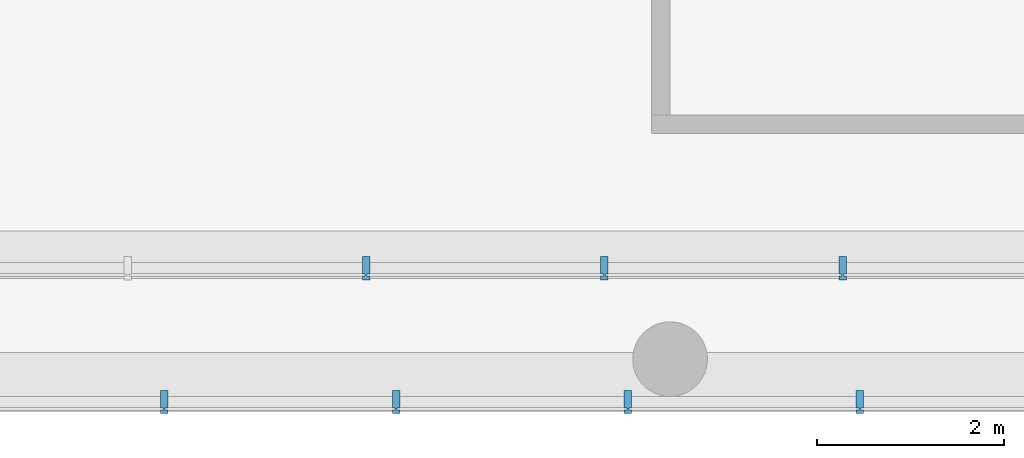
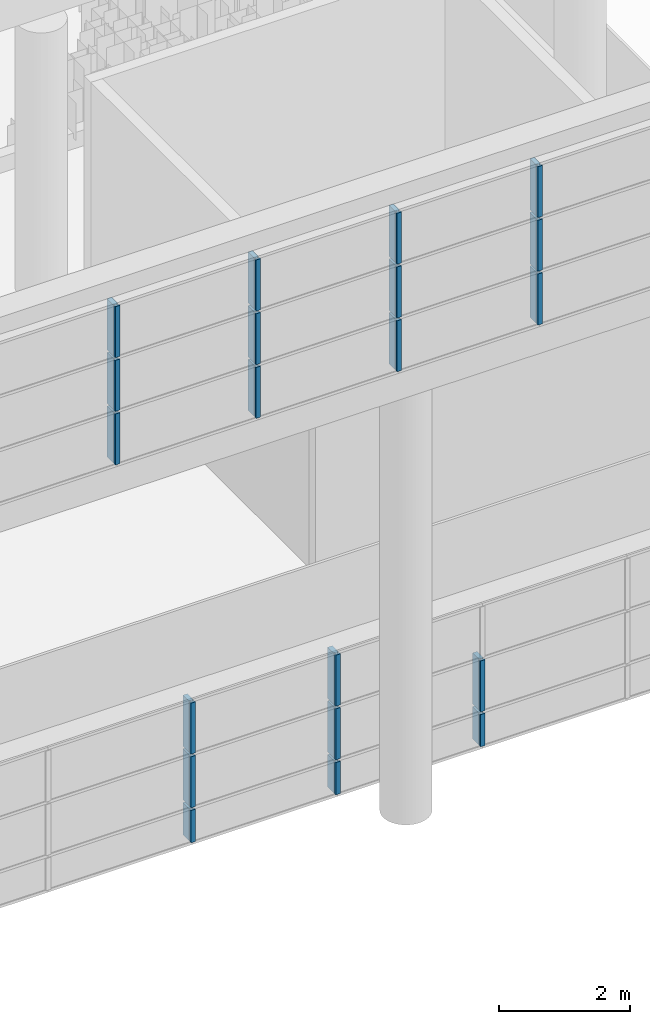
# One storey, part 93 of 105: 20 building element parts, 2 elements without a shape of their own.
"""IFC4 building model written with IfcOpenShell, lengths in millimetres."""

import ifcopenshell
import ifcopenshell.guid

model = None  # the IFC model being written
_history = None  # IfcOwnerHistory: only IFC2X3 demands one
_inside = {}  # id of a spatial element -> (the spatial element, [elements in it])
_under = {}  # id of a project, library or spatial element -> (it, [spatial elements below it])
_declared = {}  # id of a project -> (the project, [libraries it declares])
_typed = {}  # id of a type object -> (the type object, [elements of that type])
_made_of = {}  # id of a material, layer set ... -> (it, [elements and type objects made of it])


def new_model(schema):
    """Start an empty IFC model of exactly this schema.

    Asked for "IFC4X3", IfcOpenShell would pick the latest addendum, in which some entities
    have other attributes; the version numbers below select the first issue.
    IFC2X3 requires an IfcOwnerHistory on every rooted entity: one is made here for all.
    """
    global model, _history
    if schema == "IFC4X3":
        model = ifcopenshell.file(schema_version=(4, 3, 0, 0))
    else:
        model = ifcopenshell.file(schema=schema)
    _inside.clear()
    _under.clear()
    _declared.clear()
    _typed.clear()
    _made_of.clear()
    _history = None
    if model.schema == "IFC2X3":
        org = make("IfcOrganization", Name="unknown")
        user = make(
            "IfcPersonAndOrganization",
            ThePerson=make("IfcPerson", FamilyName="unknown"),
            TheOrganization=org,
        )
        app = make(
            "IfcApplication",
            ApplicationDeveloper=org,
            Version="unknown",
            ApplicationFullName="unknown",
            ApplicationIdentifier="unknown",
        )
        _history = make(
            "IfcOwnerHistory",
            OwningUser=user,
            OwningApplication=app,
            ChangeAction="ADDED",
            CreationDate=0,
        )
    return model


def make(cls, **values):
    """One entity of the class cls with the attributes given. An attribute that is None is left unset."""
    return model.create_entity(
        cls, **{name: value for name, value in values.items() if value is not None}
    )


def entity(cls, *values):
    """Any entity or typed value of the class cls, its attributes in the order of the schema. None: left unset."""
    e = model.create_entity(cls)
    for i, value in enumerate(values):
        if value is not None:
            e[i] = value
    return e


def rooted(cls, **values):
    """An entity with a GlobalId (a new one), such as an element, a storey or a relation."""
    return make(cls, GlobalId=ifcopenshell.guid.new(), OwnerHistory=_history, **values)


def si_unit(unit_type, name, prefix=None):
    """IfcSIUnit, for example si_unit("LENGTHUNIT", "METRE", prefix="MILLI")."""
    return make("IfcSIUnit", UnitType=unit_type, Prefix=prefix, Name=name)


def converted_unit(unit_type, name, factor, base, dimensions=None, offset=None):
    """IfcConversionBasedUnit, such as the inch: factor (a typed value) times the base unit."""
    return make(
        "IfcConversionBasedUnit"
        if offset is None
        else "IfcConversionBasedUnitWithOffset",
        ConversionOffset=offset,
        Dimensions=None
        if dimensions is None
        else entity("IfcDimensionalExponents", *dimensions),
        UnitType=unit_type,
        Name=name,
        ConversionFactor=make(
            "IfcMeasureWithUnit", ValueComponent=factor, UnitComponent=base
        ),
    )


def derived_unit(unit_type, elements):
    """IfcDerivedUnit: a product of units, each with its exponent."""
    return make(
        "IfcDerivedUnit",
        Elements=[
            make("IfcDerivedUnitElement", Unit=unit, Exponent=power)
            for unit, power in elements
        ],
        UnitType=unit_type,
    )


def assignment(units):
    """IfcUnitAssignment: the units of a project."""
    return None if units is None else make("IfcUnitAssignment", Units=units)


def point(xyz):
    """IfcCartesianPoint."""
    return None if xyz is None else make("IfcCartesianPoint", Coordinates=xyz)


def direction(xyz):
    """IfcDirection."""
    return None if xyz is None else make("IfcDirection", DirectionRatios=xyz)


def frame(location, z_axis=None, x_axis=None):
    """IfcAxis2Placement3D, a coordinate frame: its origin and axes. An axis left out is left unset."""
    return make(
        "IfcAxis2Placement3D",
        Location=point(location),
        Axis=direction(z_axis),
        RefDirection=direction(x_axis),
    )


def origin_with_axes():
    """The frame at (0, 0, 0) with the z axis (0, 0, 1) and the x axis (1, 0, 0) written out."""
    return frame((0.0, 0.0, 0.0), z_axis=(0.0, 0.0, 1.0), x_axis=(1.0, 0.0, 0.0))


def place(relative_to, where):
    """IfcLocalPlacement: puts the frame where relative to a parent placement (None: the world)."""
    return make(
        "IfcLocalPlacement", PlacementRelTo=relative_to, RelativePlacement=where
    )


def context(
    kind, dimensions, precision=None, world=None, true_north=None, identifier=None
):
    """IfcGeometricRepresentationContext, for example the 3D "Model" context."""
    return make(
        "IfcGeometricRepresentationContext",
        ContextIdentifier=identifier,
        ContextType=kind,
        CoordinateSpaceDimension=dimensions,
        Precision=precision,
        WorldCoordinateSystem=world,
        TrueNorth=true_north,
    )


def subcontext(parent, identifier, kind, view, scale=None):
    """IfcGeometricRepresentationSubContext, for example "Body" below "Model"."""
    return make(
        "IfcGeometricRepresentationSubContext",
        ContextIdentifier=identifier,
        ContextType=kind,
        ParentContext=parent,
        TargetScale=scale,
        TargetView=view,
    )


def project(units=None, contexts=None):
    """IfcProject with its units and contexts."""
    return rooted(
        "IfcProject",
        Name="project",
        RepresentationContexts=contexts,
        UnitsInContext=assignment(units),
    )


def spatial(cls, under=None, at=None, **own):
    """A site, building, storey or space (cls), placed at a placement, below another one or the project."""
    s = rooted(cls, ObjectPlacement=at, **own)
    if under is not None:
        _under.setdefault(under.id(), (under, []))[1].append(s)
    return s


def point_list(points):
    """IfcCartesianPointList2D or 3D."""
    cls = (
        "IfcCartesianPointList2D" if len(points[0]) == 2 else "IfcCartesianPointList3D"
    )
    return make(cls, CoordList=points)


def triangles(points, corners, closed=None, point_numbers=None):
    """IfcTriangulatedFaceSet: each triangle names its three corners, points numbered from 1."""
    return make(
        "IfcTriangulatedFaceSet",
        Coordinates=point_list(points),
        Closed=closed,
        CoordIndex=corners,
        PnIndex=point_numbers,
    )


def shape(context_of_items, identifier, shape_type, items):
    """IfcShapeRepresentation: the items that make up one representation, for example the "Body"."""
    return make(
        "IfcShapeRepresentation",
        ContextOfItems=context_of_items,
        RepresentationIdentifier=identifier,
        RepresentationType=shape_type,
        Items=items,
    )


def material(Name=None, Category=None):
    """IfcMaterial."""
    return make("IfcMaterial", Name=Name, Category=Category)


def made_of(thing, what):
    """Note that an element or type object is made of a material, layer set ...; save() writes the relation."""
    if what is not None:
        _made_of.setdefault(what.id(), (what, []))[1].append(thing)
    return thing


def element(
    cls,
    number,
    at=None,
    inside=None,
    cuts=None,
    type_object=None,
    material=None,
    context=None,
    identifier="Body",
    shape_type=None,
    held_by="IfcProductDefinitionShape",
    body=None,
    shapes=None,
    **own,
):
    """One element of the class cls, such as IfcWall. Its Tag is "e" and its number.

    at: its placement. inside: the storey or other place that contains it. cuts: it is an
    opening in that element (IfcRelVoidsElement). A single representation is given by context,
    identifier, shape_type and body (its items); several are given by shapes. held_by: the class
    of the entity that holds the representations. save() writes the other relations.
    """
    e = rooted(cls, Tag="e%d" % number, ObjectPlacement=at, **own)
    if body is not None:
        shapes = [shape(context, identifier, shape_type, body)]
    if shapes is not None:
        e.Representation = make(held_by, Representations=shapes)
    if inside is not None:
        _inside.setdefault(inside.id(), (inside, []))[1].append(e)
    if cuts is not None:
        rooted(
            "IfcRelVoidsElement", RelatingBuildingElement=cuts, RelatedOpeningElement=e
        )
    if type_object is not None:
        _typed.setdefault(type_object.id(), (type_object, []))[1].append(e)
    return made_of(e, material)


def aggregate(whole, parts):
    """IfcRelAggregates: a whole, such as a stair, and the parts it consists of."""
    return rooted("IfcRelAggregates", RelatingObject=whole, RelatedObjects=parts)


def save(model, path):
    """Write the relations noted so far, then the file.

    IfcRelAggregates (storeys below a building ...), IfcRelContainedInSpatialStructure (elements
    in a storey), IfcRelDefinesByType, IfcRelAssociatesMaterial and IfcRelDeclares: one each for
    every whole, place, type object, material and project.
    """
    for whole, parts in _under.values():
        aggregate(whole, parts)
    for where, things in _inside.values():
        rooted(
            "IfcRelContainedInSpatialStructure",
            RelatedElements=things,
            RelatingStructure=where,
        )
    for kind, things in _typed.values():
        rooted("IfcRelDefinesByType", RelatedObjects=things, RelatingType=kind)
    for what, things in _made_of.values():
        rooted("IfcRelAssociatesMaterial", RelatedObjects=things, RelatingMaterial=what)
    for by, libraries in _declared.values():
        rooted("IfcRelDeclares", RelatingContext=by, RelatedDefinitions=libraries)
    model.write(path)


model = new_model("IFC4")

# Units and contexts
model_context = context("Model", 3, precision=1e-05, world=origin_with_axes(), true_north=direction((0.0, 1.0)))
body_context = subcontext(model_context, "Body", "Model", "MODEL_VIEW")
ifc_project = project(units=[si_unit("LENGTHUNIT", "METRE", prefix="MILLI"), si_unit("AREAUNIT", "SQUARE_METRE"), si_unit("VOLUMEUNIT", "CUBIC_METRE"), converted_unit("PLANEANGLEUNIT", "DEGREE", entity("IfcLengthMeasure", 0.017453), si_unit("PLANEANGLEUNIT", "RADIAN"), dimensions=[0, 0, 0, 0, 0, 0, 0]), si_unit("SOLIDANGLEUNIT", "STERADIAN"), si_unit("MASSUNIT", "GRAM"), si_unit("TIMEUNIT", "SECOND"), si_unit("THERMODYNAMICTEMPERATUREUNIT", "DEGREE_CELSIUS"), si_unit("LUMINOUSINTENSITYUNIT", "LUMEN"), si_unit("POWERUNIT", "WATT"), derived_unit("THERMALTRANSMITTANCEUNIT", [(si_unit("POWERUNIT", "WATT"), 1), (si_unit("THERMODYNAMICTEMPERATUREUNIT", "KELVIN"), -1), (si_unit("AREAUNIT", "SQUARE_METRE"), -1)])], contexts=[model_context])

# Site, building, storey
site_placement = place(None, origin_with_axes())
site = spatial("IfcSite", under=ifc_project, at=site_placement, Name="Default Site", CompositionType="ELEMENT")
building_placement = place(site_placement, origin_with_axes())
building = spatial("IfcBuilding", under=site, at=building_placement, Name="Default Building", CompositionType="ELEMENT")
storey_placement = place(building_placement, origin_with_axes())
storey = spatial("IfcBuildingStorey", under=building, at=storey_placement, Name="OG - Story", CompositionType="ELEMENT", Elevation=0.0)

# Curtain wall, building element parts
curtain_wall_1_placement = place(storey_placement, origin_with_axes())
curtain_wall_1 = element("IfcCurtainWall", 1, at=curtain_wall_1_placement, inside=storey, Name="Fassade-001", PredefinedType="NOTDEFINED")
ifc_material = material(Name="Blech")
building_element_part_1_placement = place(curtain_wall_1_placement, frame((52496.845873, -51289.262838, 0.0), z_axis=(0.0, 0.0, 1.0), x_axis=(1.0, 0.0, 0.0)))
building_element_part_1 = element("IfcBuildingElementPart", 2, at=building_element_part_1_placement, material=ifc_material, Name="Blech", PredefinedType="NOTDEFINED", context=body_context, shape_type="Tessellation", body=[
    triangles([(14070.0, 10.0, 625.0), (14070.0, 200.0, 625.0), (14040.0, 10.0, 625.0), (14020.0, 10.0, 625.0), (14040.0, -9.999, 625.0), (14070.0, -49.999, 625.0), (14070.0, -9.999, 625.0), (13990.0, 200.0, 625.0), (13990.0, 10.0, 625.0), (14020.0, -9.999, 625.0), (13990.0, -9.999, 625.0), (13990.0, -49.999, 625.0), (14040.0, 10.0, 25.0), (14070.0, 10.0, 25.0), (14070.0, 200.0, 25.0), (13990.0, 200.0, 25.0), (13990.0, 10.0, 25.0), (14020.0, 10.0, 25.0), (14020.0, -9.999, 25.0), (13990.0, -9.999, 25.0), (13990.0, -49.999, 25.0), (14070.0, -49.999, 25.0), (14070.0, -9.999, 25.0), (14040.0, -9.999, 25.0)], [[1, 2, 3], [3, 2, 4], [3, 4, 5], [5, 4, 6], [5, 6, 7], [8, 9, 4], [8, 4, 2], [6, 4, 10], [6, 10, 11], [6, 11, 12], [1, 3, 13], [1, 13, 14], [1, 14, 15], [1, 15, 2], [2, 15, 16], [2, 16, 8], [9, 8, 16], [9, 16, 17], [9, 17, 18], [9, 18, 4], [4, 18, 19], [4, 19, 10], [11, 10, 19], [11, 19, 20], [20, 21, 12], [20, 12, 11], [12, 21, 22], [12, 22, 6], [23, 7, 6], [23, 6, 22], [5, 7, 23], [5, 23, 24], [3, 5, 24], [3, 24, 13], [23, 22, 24], [24, 22, 19], [24, 19, 13], [13, 19, 15], [13, 15, 14], [21, 20, 19], [21, 19, 22], [15, 19, 18], [15, 18, 17], [15, 17, 16]], closed=False),
])
building_element_part_2_placement = place(curtain_wall_1_placement, frame((52496.845873, -51289.262838, 0.0), z_axis=(0.0, 0.0, 1.0), x_axis=(1.0, 0.0, 0.0)))
building_element_part_2 = element("IfcBuildingElementPart", 3, at=building_element_part_2_placement, material=ifc_material, Name="Blech", PredefinedType="NOTDEFINED", context=body_context, shape_type="Tessellation", body=[
    triangles([(16620.909, 10.0, 625.0), (16620.909, 200.0, 625.0), (16590.909, 10.0, 625.0), (16570.909, 10.0, 625.0), (16590.909, -9.999, 625.0), (16620.909, -49.999, 625.0), (16620.909, -9.999, 625.0), (16540.909, 200.0, 625.0), (16540.909, 10.0, 625.0), (16570.909, -9.999, 625.0), (16540.909, -9.999, 625.0), (16540.909, -49.999, 625.0), (16590.909, 10.0, 25.0), (16620.909, 10.0, 25.0), (16620.909, 200.0, 25.0), (16540.909, 200.0, 25.0), (16540.909, 10.0, 25.0), (16570.909, 10.0, 25.0), (16570.909, -9.999, 25.0), (16540.909, -9.999, 25.0), (16540.909, -49.999, 25.0), (16620.909, -49.999, 25.0), (16620.909, -9.999, 25.0), (16590.909, -9.999, 25.0)], [[1, 2, 3], [3, 2, 4], [3, 4, 5], [5, 4, 6], [5, 6, 7], [8, 9, 4], [8, 4, 2], [6, 4, 10], [6, 10, 11], [6, 11, 12], [1, 3, 13], [1, 13, 14], [1, 14, 15], [1, 15, 2], [2, 15, 16], [2, 16, 8], [9, 8, 16], [9, 16, 17], [9, 17, 18], [9, 18, 4], [4, 18, 19], [4, 19, 10], [11, 10, 19], [11, 19, 20], [20, 21, 12], [20, 12, 11], [12, 21, 22], [12, 22, 6], [23, 7, 6], [23, 6, 22], [5, 7, 23], [5, 23, 24], [3, 5, 24], [3, 24, 13], [23, 22, 24], [24, 22, 19], [24, 19, 13], [13, 19, 15], [13, 15, 14], [21, 20, 19], [21, 19, 22], [15, 19, 18], [15, 18, 17], [15, 17, 16]], closed=False),
])
building_element_part_3_placement = place(curtain_wall_1_placement, frame((52496.845873, -51289.262838, 0.0), z_axis=(0.0, 0.0, 1.0), x_axis=(1.0, 0.0, 0.0)))
building_element_part_3 = element("IfcBuildingElementPart", 4, at=building_element_part_3_placement, material=ifc_material, Name="Blech", PredefinedType="NOTDEFINED", context=body_context, shape_type="Tessellation", body=[
    triangles([(19171.818, 10.0, 625.0), (19171.818, 200.0, 625.0), (19141.818, 10.0, 625.0), (19121.818, 10.0, 625.0), (19141.818, -9.999, 625.0), (19171.818, -49.999, 625.0), (19171.818, -9.999, 625.0), (19091.818, 200.0, 625.0), (19091.818, 10.0, 625.0), (19121.818, -9.999, 625.0), (19091.818, -9.999, 625.0), (19091.818, -49.999, 625.0), (19141.818, 10.0, 25.0), (19171.818, 10.0, 25.0), (19171.818, 200.0, 25.0), (19091.818, 200.0, 25.0), (19091.818, 10.0, 25.0), (19121.818, 10.0, 25.0), (19121.818, -9.999, 25.0), (19091.818, -9.999, 25.0), (19091.818, -49.999, 25.0), (19171.818, -49.999, 25.0), (19171.818, -9.999, 25.0), (19141.818, -9.999, 25.0)], [[1, 2, 3], [3, 2, 4], [3, 4, 5], [5, 4, 6], [5, 6, 7], [8, 9, 4], [8, 4, 2], [6, 4, 10], [6, 10, 11], [6, 11, 12], [1, 3, 13], [1, 13, 14], [1, 14, 15], [1, 15, 2], [2, 15, 16], [2, 16, 8], [9, 8, 16], [9, 16, 17], [9, 17, 18], [9, 18, 4], [4, 18, 19], [4, 19, 10], [11, 10, 19], [11, 19, 20], [20, 21, 12], [20, 12, 11], [12, 21, 22], [12, 22, 6], [23, 7, 6], [23, 6, 22], [5, 7, 23], [5, 23, 24], [3, 5, 24], [3, 24, 13], [23, 22, 24], [24, 22, 19], [24, 19, 13], [13, 19, 15], [13, 15, 14], [21, 20, 19], [21, 19, 22], [15, 19, 18], [15, 18, 17], [15, 17, 16]], closed=False),
])
building_element_part_4_placement = place(curtain_wall_1_placement, frame((52496.845873, -51289.262838, 0.0), z_axis=(0.0, 0.0, 1.0), x_axis=(1.0, 0.0, 0.0)))
building_element_part_4 = element("IfcBuildingElementPart", 5, at=building_element_part_4_placement, material=ifc_material, Name="Blech", PredefinedType="NOTDEFINED", context=body_context, shape_type="Tessellation", body=[
    triangles([(14070.0, 10.0, 1625.0), (14070.0, 200.0, 1625.0), (14040.0, 10.0, 1625.0), (14020.0, 10.0, 1625.0), (14040.0, -9.999, 1625.0), (14070.0, -49.999, 1625.0), (14070.0, -9.999, 1625.0), (13990.0, 200.0, 1625.0), (13990.0, 10.0, 1625.0), (14020.0, -9.999, 1625.0), (13990.0, -9.999, 1625.0), (13990.0, -49.999, 1625.0), (14040.0, 10.0, 675.0), (14070.0, 10.0, 675.0), (14070.0, 200.0, 675.0), (13990.0, 200.0, 675.0), (13990.0, 10.0, 675.0), (14020.0, 10.0, 675.0), (14020.0, -9.999, 675.0), (13990.0, -9.999, 675.0), (13990.0, -49.999, 675.0), (14070.0, -49.999, 675.0), (14070.0, -9.999, 675.0), (14040.0, -9.999, 675.0)], [[1, 2, 3], [3, 2, 4], [3, 4, 5], [5, 4, 6], [5, 6, 7], [8, 9, 4], [8, 4, 2], [6, 4, 10], [6, 10, 11], [6, 11, 12], [1, 3, 13], [1, 13, 14], [1, 14, 15], [1, 15, 2], [2, 15, 16], [2, 16, 8], [9, 8, 16], [9, 16, 17], [9, 17, 18], [9, 18, 4], [4, 18, 19], [4, 19, 10], [11, 10, 19], [11, 19, 20], [20, 21, 12], [20, 12, 11], [12, 21, 22], [12, 22, 6], [23, 7, 6], [23, 6, 22], [5, 7, 23], [5, 23, 24], [3, 5, 24], [3, 24, 13], [23, 22, 24], [24, 22, 19], [24, 19, 13], [13, 19, 15], [13, 15, 14], [21, 20, 19], [21, 19, 22], [15, 19, 18], [15, 18, 17], [15, 17, 16]], closed=False),
])
building_element_part_5_placement = place(curtain_wall_1_placement, frame((52496.845873, -51289.262838, 0.0), z_axis=(0.0, 0.0, 1.0), x_axis=(1.0, 0.0, 0.0)))
building_element_part_5 = element("IfcBuildingElementPart", 6, at=building_element_part_5_placement, material=ifc_material, Name="Blech", PredefinedType="NOTDEFINED", context=body_context, shape_type="Tessellation", body=[
    triangles([(16620.909, 10.0, 1625.0), (16620.909, 200.0, 1625.0), (16590.909, 10.0, 1625.0), (16570.909, 10.0, 1625.0), (16590.909, -9.999, 1625.0), (16620.909, -49.999, 1625.0), (16620.909, -9.999, 1625.0), (16540.909, 200.0, 1625.0), (16540.909, 10.0, 1625.0), (16570.909, -9.999, 1625.0), (16540.909, -9.999, 1625.0), (16540.909, -49.999, 1625.0), (16590.909, 10.0, 675.0), (16620.909, 10.0, 675.0), (16620.909, 200.0, 675.0), (16540.909, 200.0, 675.0), (16540.909, 10.0, 675.0), (16570.909, 10.0, 675.0), (16570.909, -9.999, 675.0), (16540.909, -9.999, 675.0), (16540.909, -49.999, 675.0), (16620.909, -49.999, 675.0), (16620.909, -9.999, 675.0), (16590.909, -9.999, 675.0)], [[1, 2, 3], [3, 2, 4], [3, 4, 5], [5, 4, 6], [5, 6, 7], [8, 9, 4], [8, 4, 2], [6, 4, 10], [6, 10, 11], [6, 11, 12], [1, 3, 13], [1, 13, 14], [1, 14, 15], [1, 15, 2], [2, 15, 16], [2, 16, 8], [9, 8, 16], [9, 16, 17], [9, 17, 18], [9, 18, 4], [4, 18, 19], [4, 19, 10], [11, 10, 19], [11, 19, 20], [20, 21, 12], [20, 12, 11], [12, 21, 22], [12, 22, 6], [23, 7, 6], [23, 6, 22], [5, 7, 23], [5, 23, 24], [3, 5, 24], [3, 24, 13], [23, 22, 24], [24, 22, 19], [24, 19, 13], [13, 19, 15], [13, 15, 14], [21, 20, 19], [21, 19, 22], [15, 19, 18], [15, 18, 17], [15, 17, 16]], closed=False),
])
building_element_part_6_placement = place(curtain_wall_1_placement, frame((52496.845873, -51289.262838, 0.0), z_axis=(0.0, 0.0, 1.0), x_axis=(1.0, 0.0, 0.0)))
building_element_part_6 = element("IfcBuildingElementPart", 7, at=building_element_part_6_placement, material=ifc_material, Name="Blech", PredefinedType="NOTDEFINED", context=body_context, shape_type="Tessellation", body=[
    triangles([(19171.818, 10.0, 1625.0), (19171.818, 200.0, 1625.0), (19141.818, 10.0, 1625.0), (19121.818, 10.0, 1625.0), (19141.818, -9.999, 1625.0), (19171.818, -49.999, 1625.0), (19171.818, -9.999, 1625.0), (19091.818, 200.0, 1625.0), (19091.818, 10.0, 1625.0), (19121.818, -9.999, 1625.0), (19091.818, -9.999, 1625.0), (19091.818, -49.999, 1625.0), (19141.818, 10.0, 675.0), (19171.818, 10.0, 675.0), (19171.818, 200.0, 675.0), (19091.818, 200.0, 675.0), (19091.818, 10.0, 675.0), (19121.818, 10.0, 675.0), (19121.818, -9.999, 675.0), (19091.818, -9.999, 675.0), (19091.818, -49.999, 675.0), (19171.818, -49.999, 675.0), (19171.818, -9.999, 675.0), (19141.818, -9.999, 675.0)], [[1, 2, 3], [3, 2, 4], [3, 4, 5], [5, 4, 6], [5, 6, 7], [8, 9, 4], [8, 4, 2], [6, 4, 10], [6, 10, 11], [6, 11, 12], [1, 3, 13], [1, 13, 14], [1, 14, 15], [1, 15, 2], [2, 15, 16], [2, 16, 8], [9, 8, 16], [9, 16, 17], [9, 17, 18], [9, 18, 4], [4, 18, 19], [4, 19, 10], [11, 10, 19], [11, 19, 20], [20, 21, 12], [20, 12, 11], [12, 21, 22], [12, 22, 6], [23, 7, 6], [23, 6, 22], [5, 7, 23], [5, 23, 24], [3, 5, 24], [3, 24, 13], [23, 22, 24], [24, 22, 19], [24, 19, 13], [13, 19, 15], [13, 15, 14], [21, 20, 19], [21, 19, 22], [15, 19, 18], [15, 18, 17], [15, 17, 16]], closed=False),
])
building_element_part_7_placement = place(curtain_wall_1_placement, frame((52496.845873, -51289.262838, 0.0), z_axis=(0.0, 0.0, 1.0), x_axis=(1.0, 0.0, 0.0)))
building_element_part_7 = element("IfcBuildingElementPart", 8, at=building_element_part_7_placement, material=ifc_material, Name="Blech", PredefinedType="NOTDEFINED", context=body_context, shape_type="Tessellation", body=[
    triangles([(14070.0, 10.0, 2625.0), (14070.0, 200.0, 2625.0), (14040.0, 10.0, 2625.0), (14020.0, 10.0, 2625.0), (14040.0, -9.999, 2625.0), (14070.0, -49.999, 2625.0), (14070.0, -9.999, 2625.0), (13990.0, 200.0, 2625.0), (13990.0, 10.0, 2625.0), (14020.0, -9.999, 2625.0), (13990.0, -9.999, 2625.0), (13990.0, -49.999, 2625.0), (14040.0, 10.0, 1675.0), (14070.0, 10.0, 1675.0), (14070.0, 200.0, 1675.0), (13990.0, 200.0, 1675.0), (13990.0, 10.0, 1675.0), (14020.0, 10.0, 1675.0), (14020.0, -9.999, 1675.0), (13990.0, -9.999, 1675.0), (13990.0, -49.999, 1675.0), (14070.0, -49.999, 1675.0), (14070.0, -9.999, 1675.0), (14040.0, -9.999, 1675.0)], [[1, 2, 3], [3, 2, 4], [3, 4, 5], [5, 4, 6], [5, 6, 7], [8, 9, 4], [8, 4, 2], [6, 4, 10], [6, 10, 11], [6, 11, 12], [1, 3, 13], [1, 13, 14], [1, 14, 15], [1, 15, 2], [2, 15, 16], [2, 16, 8], [9, 8, 16], [9, 16, 17], [9, 17, 18], [9, 18, 4], [4, 18, 19], [4, 19, 10], [11, 10, 19], [11, 19, 20], [20, 21, 12], [20, 12, 11], [12, 21, 22], [12, 22, 6], [23, 7, 6], [23, 6, 22], [5, 7, 23], [5, 23, 24], [3, 5, 24], [3, 24, 13], [23, 22, 24], [24, 22, 19], [24, 19, 13], [13, 19, 15], [13, 15, 14], [21, 20, 19], [21, 19, 22], [15, 19, 18], [15, 18, 17], [15, 17, 16]], closed=False),
])
building_element_part_8_placement = place(curtain_wall_1_placement, frame((52496.845873, -51289.262838, 0.0), z_axis=(0.0, 0.0, 1.0), x_axis=(1.0, 0.0, 0.0)))
building_element_part_8 = element("IfcBuildingElementPart", 9, at=building_element_part_8_placement, material=ifc_material, Name="Blech", PredefinedType="NOTDEFINED", context=body_context, shape_type="Tessellation", body=[
    triangles([(16620.909, 10.0, 2625.0), (16620.909, 200.0, 2625.0), (16590.909, 10.0, 2625.0), (16570.909, 10.0, 2625.0), (16590.909, -9.999, 2625.0), (16620.909, -49.999, 2625.0), (16620.909, -9.999, 2625.0), (16540.909, 200.0, 2625.0), (16540.909, 10.0, 2625.0), (16570.909, -9.999, 2625.0), (16540.909, -9.999, 2625.0), (16540.909, -49.999, 2625.0), (16590.909, 10.0, 1675.0), (16620.909, 10.0, 1675.0), (16620.909, 200.0, 1675.0), (16540.909, 200.0, 1675.0), (16540.909, 10.0, 1675.0), (16570.909, 10.0, 1675.0), (16570.909, -9.999, 1675.0), (16540.909, -9.999, 1675.0), (16540.909, -49.999, 1675.0), (16620.909, -49.999, 1675.0), (16620.909, -9.999, 1675.0), (16590.909, -9.999, 1675.0)], [[1, 2, 3], [3, 2, 4], [3, 4, 5], [5, 4, 6], [5, 6, 7], [8, 9, 4], [8, 4, 2], [6, 4, 10], [6, 10, 11], [6, 11, 12], [1, 3, 13], [1, 13, 14], [1, 14, 15], [1, 15, 2], [2, 15, 16], [2, 16, 8], [9, 8, 16], [9, 16, 17], [9, 17, 18], [9, 18, 4], [4, 18, 19], [4, 19, 10], [11, 10, 19], [11, 19, 20], [20, 21, 12], [20, 12, 11], [12, 21, 22], [12, 22, 6], [23, 7, 6], [23, 6, 22], [5, 7, 23], [5, 23, 24], [3, 5, 24], [3, 24, 13], [23, 22, 24], [24, 22, 19], [24, 19, 13], [13, 19, 15], [13, 15, 14], [21, 20, 19], [21, 19, 22], [15, 19, 18], [15, 18, 17], [15, 17, 16]], closed=False),
])
aggregate(curtain_wall_1, [building_element_part_1, building_element_part_2, building_element_part_3, building_element_part_4, building_element_part_5, building_element_part_6, building_element_part_7, building_element_part_8])

curtain_wall_2_placement = place(storey_placement, origin_with_axes())
curtain_wall_2 = element("IfcCurtainWall", 10, at=curtain_wall_2_placement, inside=storey, Name="Fassade-002", PredefinedType="NOTDEFINED")
building_element_part_9_placement = place(curtain_wall_2_placement, frame((33339.077852, -52722.262838, 8660.317768), z_axis=(0.0, 0.0, 1.0), x_axis=(1.0, 0.0, 0.0)))
building_element_part_9 = element("IfcBuildingElementPart", 11, at=building_element_part_9_placement, material=ifc_material, Name="Blech", PredefinedType="NOTDEFINED", context=body_context, shape_type="Tessellation", body=[
    triangles([(31066.161, 10.0, 975.0), (31066.161, 200.0, 975.0), (31036.161, 10.0, 975.0), (31016.161, 10.0, 975.0), (31036.161, -9.999, 975.0), (31066.161, -49.999, 975.0), (31066.161, -9.999, 975.0), (30986.161, 200.0, 975.0), (30986.161, 10.0, 975.0), (31016.161, -9.999, 975.0), (30986.161, -9.999, 975.0), (30986.161, -49.999, 975.0), (31036.161, 10.0, 25.0), (31066.161, 10.0, 25.0), (31066.161, 200.0, 25.0), (30986.161, 200.0, 25.0), (30986.161, 10.0, 25.0), (31016.161, 10.0, 25.0), (31016.161, -9.999, 25.0), (30986.161, -9.999, 25.0), (30986.161, -49.999, 25.0), (31066.161, -49.999, 25.0), (31066.161, -9.999, 25.0), (31036.161, -9.999, 25.0)], [[1, 2, 3], [3, 2, 4], [3, 4, 5], [5, 4, 6], [5, 6, 7], [8, 9, 4], [8, 4, 2], [6, 4, 10], [6, 10, 11], [6, 11, 12], [1, 3, 13], [1, 13, 14], [1, 14, 15], [1, 15, 2], [2, 15, 16], [2, 16, 8], [9, 8, 16], [9, 16, 17], [9, 17, 18], [9, 18, 4], [4, 18, 19], [4, 19, 10], [11, 10, 19], [11, 19, 20], [20, 21, 12], [20, 12, 11], [12, 21, 22], [12, 22, 6], [23, 7, 6], [23, 6, 22], [5, 7, 23], [5, 23, 24], [3, 5, 24], [3, 24, 13], [23, 22, 24], [24, 22, 19], [24, 19, 13], [13, 19, 15], [13, 15, 14], [21, 20, 19], [21, 19, 22], [15, 19, 18], [15, 18, 17], [15, 17, 16]], closed=False),
])
building_element_part_10_placement = place(curtain_wall_2_placement, frame((33339.077852, -52722.262838, 8660.317768), z_axis=(0.0, 0.0, 1.0), x_axis=(1.0, 0.0, 0.0)))
building_element_part_10 = element("IfcBuildingElementPart", 12, at=building_element_part_10_placement, material=ifc_material, Name="Blech", PredefinedType="NOTDEFINED", context=body_context, shape_type="Tessellation", body=[
    triangles([(31066.161, 10.0, 1975.0), (31066.161, 200.0, 1975.0), (31036.161, 10.0, 1975.0), (31016.161, 10.0, 1975.0), (31036.161, -9.999, 1975.0), (31066.161, -49.999, 1975.0), (31066.161, -9.999, 1975.0), (30986.161, 200.0, 1975.0), (30986.161, 10.0, 1975.0), (31016.161, -9.999, 1975.0), (30986.161, -9.999, 1975.0), (30986.161, -49.999, 1975.0), (31036.161, 10.0, 1025.0), (31066.161, 10.0, 1025.0), (31066.161, 200.0, 1025.0), (30986.161, 200.0, 1025.0), (30986.161, 10.0, 1025.0), (31016.161, 10.0, 1025.0), (31016.161, -9.999, 1025.0), (30986.161, -9.999, 1025.0), (30986.161, -49.999, 1025.0), (31066.161, -49.999, 1025.0), (31066.161, -9.999, 1025.0), (31036.161, -9.999, 1025.0)], [[1, 2, 3], [3, 2, 4], [3, 4, 5], [5, 4, 6], [5, 6, 7], [8, 9, 4], [8, 4, 2], [6, 4, 10], [6, 10, 11], [6, 11, 12], [1, 3, 13], [1, 13, 14], [1, 14, 15], [1, 15, 2], [2, 15, 16], [2, 16, 8], [9, 8, 16], [9, 16, 17], [9, 17, 18], [9, 18, 4], [4, 18, 19], [4, 19, 10], [11, 10, 19], [11, 19, 20], [20, 21, 12], [20, 12, 11], [12, 21, 22], [12, 22, 6], [23, 7, 6], [23, 6, 22], [5, 7, 23], [5, 23, 24], [3, 5, 24], [3, 24, 13], [23, 22, 24], [24, 22, 19], [24, 19, 13], [13, 19, 15], [13, 15, 14], [21, 20, 19], [21, 19, 22], [15, 19, 18], [15, 18, 17], [15, 17, 16]], closed=False),
])
building_element_part_11_placement = place(curtain_wall_2_placement, frame((33339.077852, -52722.262838, 8660.317768), z_axis=(0.0, 0.0, 1.0), x_axis=(1.0, 0.0, 0.0)))
building_element_part_11 = element("IfcBuildingElementPart", 13, at=building_element_part_11_placement, material=ifc_material, Name="Blech", PredefinedType="NOTDEFINED", context=body_context, shape_type="Tessellation", body=[
    triangles([(31066.161, 10.0, 2975.0), (31066.161, 200.0, 2975.0), (31036.161, 10.0, 2975.0), (31016.161, 10.0, 2975.0), (31036.161, -9.999, 2975.0), (31066.161, -49.999, 2975.0), (31066.161, -9.999, 2975.0), (30986.161, 200.0, 2975.0), (30986.161, 10.0, 2975.0), (31016.161, -9.999, 2975.0), (30986.161, -9.999, 2975.0), (30986.161, -49.999, 2975.0), (31036.161, 10.0, 2025.0), (31066.161, 10.0, 2025.0), (31066.161, 200.0, 2025.0), (30986.161, 200.0, 2025.0), (30986.161, 10.0, 2025.0), (31016.161, 10.0, 2025.0), (31016.161, -9.999, 2025.0), (30986.161, -9.999, 2025.0), (30986.161, -49.999, 2025.0), (31066.161, -49.999, 2025.0), (31066.161, -9.999, 2025.0), (31036.161, -9.999, 2025.0)], [[1, 2, 3], [3, 2, 4], [3, 4, 5], [5, 4, 6], [5, 6, 7], [8, 9, 4], [8, 4, 2], [6, 4, 10], [6, 10, 11], [6, 11, 12], [1, 3, 13], [1, 13, 14], [1, 14, 15], [1, 15, 2], [2, 15, 16], [2, 16, 8], [9, 8, 16], [9, 16, 17], [9, 17, 18], [9, 18, 4], [4, 18, 19], [4, 19, 10], [11, 10, 19], [11, 19, 20], [20, 21, 12], [20, 12, 11], [12, 21, 22], [12, 22, 6], [23, 7, 6], [23, 6, 22], [5, 7, 23], [5, 23, 24], [3, 5, 24], [3, 24, 13], [23, 22, 24], [24, 22, 19], [24, 19, 13], [13, 19, 15], [13, 15, 14], [21, 20, 19], [21, 19, 22], [15, 19, 18], [15, 18, 17], [15, 17, 16]], closed=False),
])
building_element_part_12_placement = place(curtain_wall_2_placement, frame((33339.077852, -52722.262838, 8660.317768), z_axis=(0.0, 0.0, 1.0), x_axis=(1.0, 0.0, 0.0)))
building_element_part_12 = element("IfcBuildingElementPart", 14, at=building_element_part_12_placement, material=ifc_material, Name="Blech", PredefinedType="NOTDEFINED", context=body_context, shape_type="Tessellation", body=[
    triangles([(33548.254, 10.0, 975.0), (33548.254, 200.0, 975.0), (33518.254, 10.0, 975.0), (33498.254, 10.0, 975.0), (33518.254, -9.999, 975.0), (33548.254, -49.999, 975.0), (33548.254, -9.999, 975.0), (33468.254, 200.0, 975.0), (33468.254, 10.0, 975.0), (33498.254, -9.999, 975.0), (33468.254, -9.999, 975.0), (33468.254, -49.999, 975.0), (33518.254, 10.0, 25.0), (33548.254, 10.0, 25.0), (33548.254, 200.0, 25.0), (33468.254, 200.0, 25.0), (33468.254, 10.0, 25.0), (33498.254, 10.0, 25.0), (33498.254, -9.999, 25.0), (33468.254, -9.999, 25.0), (33468.254, -49.999, 25.0), (33548.254, -49.999, 25.0), (33548.254, -9.999, 25.0), (33518.254, -9.999, 25.0)], [[1, 2, 3], [3, 2, 4], [3, 4, 5], [5, 4, 6], [5, 6, 7], [8, 9, 4], [8, 4, 2], [6, 4, 10], [6, 10, 11], [6, 11, 12], [1, 3, 13], [1, 13, 14], [1, 14, 15], [1, 15, 2], [2, 15, 16], [2, 16, 8], [9, 8, 16], [9, 16, 17], [9, 17, 18], [9, 18, 4], [4, 18, 19], [4, 19, 10], [11, 10, 19], [11, 19, 20], [20, 21, 12], [20, 12, 11], [12, 21, 22], [12, 22, 6], [23, 7, 6], [23, 6, 22], [5, 7, 23], [5, 23, 24], [3, 5, 24], [3, 24, 13], [23, 22, 24], [24, 22, 19], [24, 19, 13], [13, 19, 15], [13, 15, 14], [21, 20, 19], [21, 19, 22], [15, 19, 18], [15, 18, 17], [15, 17, 16]], closed=False),
])
building_element_part_13_placement = place(curtain_wall_2_placement, frame((33339.077852, -52722.262838, 8660.317768), z_axis=(0.0, 0.0, 1.0), x_axis=(1.0, 0.0, 0.0)))
building_element_part_13 = element("IfcBuildingElementPart", 15, at=building_element_part_13_placement, material=ifc_material, Name="Blech", PredefinedType="NOTDEFINED", context=body_context, shape_type="Tessellation", body=[
    triangles([(33548.254, 10.0, 1975.0), (33548.254, 200.0, 1975.0), (33518.254, 10.0, 1975.0), (33498.254, 10.0, 1975.0), (33518.254, -9.999, 1975.0), (33548.254, -49.999, 1975.0), (33548.254, -9.999, 1975.0), (33468.254, 200.0, 1975.0), (33468.254, 10.0, 1975.0), (33498.254, -9.999, 1975.0), (33468.254, -9.999, 1975.0), (33468.254, -49.999, 1975.0), (33518.254, 10.0, 1025.0), (33548.254, 10.0, 1025.0), (33548.254, 200.0, 1025.0), (33468.254, 200.0, 1025.0), (33468.254, 10.0, 1025.0), (33498.254, 10.0, 1025.0), (33498.254, -9.999, 1025.0), (33468.254, -9.999, 1025.0), (33468.254, -49.999, 1025.0), (33548.254, -49.999, 1025.0), (33548.254, -9.999, 1025.0), (33518.254, -9.999, 1025.0)], [[1, 2, 3], [3, 2, 4], [3, 4, 5], [5, 4, 6], [5, 6, 7], [8, 9, 4], [8, 4, 2], [6, 4, 10], [6, 10, 11], [6, 11, 12], [1, 3, 13], [1, 13, 14], [1, 14, 15], [1, 15, 2], [2, 15, 16], [2, 16, 8], [9, 8, 16], [9, 16, 17], [9, 17, 18], [9, 18, 4], [4, 18, 19], [4, 19, 10], [11, 10, 19], [11, 19, 20], [20, 21, 12], [20, 12, 11], [12, 21, 22], [12, 22, 6], [23, 7, 6], [23, 6, 22], [5, 7, 23], [5, 23, 24], [3, 5, 24], [3, 24, 13], [23, 22, 24], [24, 22, 19], [24, 19, 13], [13, 19, 15], [13, 15, 14], [21, 20, 19], [21, 19, 22], [15, 19, 18], [15, 18, 17], [15, 17, 16]], closed=False),
])
building_element_part_14_placement = place(curtain_wall_2_placement, frame((33339.077852, -52722.262838, 8660.317768), z_axis=(0.0, 0.0, 1.0), x_axis=(1.0, 0.0, 0.0)))
building_element_part_14 = element("IfcBuildingElementPart", 16, at=building_element_part_14_placement, material=ifc_material, Name="Blech", PredefinedType="NOTDEFINED", context=body_context, shape_type="Tessellation", body=[
    triangles([(33548.254, 10.0, 2975.0), (33548.254, 200.0, 2975.0), (33518.254, 10.0, 2975.0), (33498.254, 10.0, 2975.0), (33518.254, -9.999, 2975.0), (33548.254, -49.999, 2975.0), (33548.254, -9.999, 2975.0), (33468.254, 200.0, 2975.0), (33468.254, 10.0, 2975.0), (33498.254, -9.999, 2975.0), (33468.254, -9.999, 2975.0), (33468.254, -49.999, 2975.0), (33518.254, 10.0, 2025.0), (33548.254, 10.0, 2025.0), (33548.254, 200.0, 2025.0), (33468.254, 200.0, 2025.0), (33468.254, 10.0, 2025.0), (33498.254, 10.0, 2025.0), (33498.254, -9.999, 2025.0), (33468.254, -9.999, 2025.0), (33468.254, -49.999, 2025.0), (33548.254, -49.999, 2025.0), (33548.254, -9.999, 2025.0), (33518.254, -9.999, 2025.0)], [[1, 2, 3], [3, 2, 4], [3, 4, 5], [5, 4, 6], [5, 6, 7], [8, 9, 4], [8, 4, 2], [6, 4, 10], [6, 10, 11], [6, 11, 12], [1, 3, 13], [1, 13, 14], [1, 14, 15], [1, 15, 2], [2, 15, 16], [2, 16, 8], [9, 8, 16], [9, 16, 17], [9, 17, 18], [9, 18, 4], [4, 18, 19], [4, 19, 10], [11, 10, 19], [11, 19, 20], [20, 21, 12], [20, 12, 11], [12, 21, 22], [12, 22, 6], [23, 7, 6], [23, 6, 22], [5, 7, 23], [5, 23, 24], [3, 5, 24], [3, 24, 13], [23, 22, 24], [24, 22, 19], [24, 19, 13], [13, 19, 15], [13, 15, 14], [21, 20, 19], [21, 19, 22], [15, 19, 18], [15, 18, 17], [15, 17, 16]], closed=False),
])
building_element_part_15_placement = place(curtain_wall_2_placement, frame((33339.077852, -52722.262838, 8660.317768), z_axis=(0.0, 0.0, 1.0), x_axis=(1.0, 0.0, 0.0)))
building_element_part_15 = element("IfcBuildingElementPart", 17, at=building_element_part_15_placement, material=ifc_material, Name="Blech", PredefinedType="NOTDEFINED", context=body_context, shape_type="Tessellation", body=[
    triangles([(36030.347, 10.0, 975.0), (36030.347, 200.0, 975.0), (36000.347, 10.0, 975.0), (35980.347, 10.0, 975.0), (36000.347, -9.999, 975.0), (36030.347, -49.999, 975.0), (36030.347, -9.999, 975.0), (35950.347, 200.0, 975.0), (35950.347, 10.0, 975.0), (35980.347, -9.999, 975.0), (35950.347, -9.999, 975.0), (35950.347, -49.999, 975.0), (36000.347, 10.0, 25.0), (36030.347, 10.0, 25.0), (36030.347, 200.0, 25.0), (35950.347, 200.0, 25.0), (35950.347, 10.0, 25.0), (35980.347, 10.0, 25.0), (35980.347, -9.999, 25.0), (35950.347, -9.999, 25.0), (35950.347, -49.999, 25.0), (36030.347, -49.999, 25.0), (36030.347, -9.999, 25.0), (36000.347, -9.999, 25.0)], [[1, 2, 3], [3, 2, 4], [3, 4, 5], [5, 4, 6], [5, 6, 7], [8, 9, 4], [8, 4, 2], [6, 4, 10], [6, 10, 11], [6, 11, 12], [1, 3, 13], [1, 13, 14], [1, 14, 15], [1, 15, 2], [2, 15, 16], [2, 16, 8], [9, 8, 16], [9, 16, 17], [9, 17, 18], [9, 18, 4], [4, 18, 19], [4, 19, 10], [11, 10, 19], [11, 19, 20], [20, 21, 12], [20, 12, 11], [12, 21, 22], [12, 22, 6], [23, 7, 6], [23, 6, 22], [5, 7, 23], [5, 23, 24], [3, 5, 24], [3, 24, 13], [23, 22, 24], [24, 22, 19], [24, 19, 13], [13, 19, 15], [13, 15, 14], [21, 20, 19], [21, 19, 22], [15, 19, 18], [15, 18, 17], [15, 17, 16]], closed=False),
])
building_element_part_16_placement = place(curtain_wall_2_placement, frame((33339.077852, -52722.262838, 8660.317768), z_axis=(0.0, 0.0, 1.0), x_axis=(1.0, 0.0, 0.0)))
building_element_part_16 = element("IfcBuildingElementPart", 18, at=building_element_part_16_placement, material=ifc_material, Name="Blech", PredefinedType="NOTDEFINED", context=body_context, shape_type="Tessellation", body=[
    triangles([(36030.347, 10.0, 1975.0), (36030.347, 200.0, 1975.0), (36000.347, 10.0, 1975.0), (35980.347, 10.0, 1975.0), (36000.347, -9.999, 1975.0), (36030.347, -49.999, 1975.0), (36030.347, -9.999, 1975.0), (35950.347, 200.0, 1975.0), (35950.347, 10.0, 1975.0), (35980.347, -9.999, 1975.0), (35950.347, -9.999, 1975.0), (35950.347, -49.999, 1975.0), (36000.347, 10.0, 1025.0), (36030.347, 10.0, 1025.0), (36030.347, 200.0, 1025.0), (35950.347, 200.0, 1025.0), (35950.347, 10.0, 1025.0), (35980.347, 10.0, 1025.0), (35980.347, -9.999, 1025.0), (35950.347, -9.999, 1025.0), (35950.347, -49.999, 1025.0), (36030.347, -49.999, 1025.0), (36030.347, -9.999, 1025.0), (36000.347, -9.999, 1025.0)], [[1, 2, 3], [3, 2, 4], [3, 4, 5], [5, 4, 6], [5, 6, 7], [8, 9, 4], [8, 4, 2], [6, 4, 10], [6, 10, 11], [6, 11, 12], [1, 3, 13], [1, 13, 14], [1, 14, 15], [1, 15, 2], [2, 15, 16], [2, 16, 8], [9, 8, 16], [9, 16, 17], [9, 17, 18], [9, 18, 4], [4, 18, 19], [4, 19, 10], [11, 10, 19], [11, 19, 20], [20, 21, 12], [20, 12, 11], [12, 21, 22], [12, 22, 6], [23, 7, 6], [23, 6, 22], [5, 7, 23], [5, 23, 24], [3, 5, 24], [3, 24, 13], [23, 22, 24], [24, 22, 19], [24, 19, 13], [13, 19, 15], [13, 15, 14], [21, 20, 19], [21, 19, 22], [15, 19, 18], [15, 18, 17], [15, 17, 16]], closed=False),
])
building_element_part_17_placement = place(curtain_wall_2_placement, frame((33339.077852, -52722.262838, 8660.317768), z_axis=(0.0, 0.0, 1.0), x_axis=(1.0, 0.0, 0.0)))
building_element_part_17 = element("IfcBuildingElementPart", 19, at=building_element_part_17_placement, material=ifc_material, Name="Blech", PredefinedType="NOTDEFINED", context=body_context, shape_type="Tessellation", body=[
    triangles([(36030.347, 10.0, 2975.0), (36030.347, 200.0, 2975.0), (36000.347, 10.0, 2975.0), (35980.347, 10.0, 2975.0), (36000.347, -9.999, 2975.0), (36030.347, -49.999, 2975.0), (36030.347, -9.999, 2975.0), (35950.347, 200.0, 2975.0), (35950.347, 10.0, 2975.0), (35980.347, -9.999, 2975.0), (35950.347, -9.999, 2975.0), (35950.347, -49.999, 2975.0), (36000.347, 10.0, 2025.0), (36030.347, 10.0, 2025.0), (36030.347, 200.0, 2025.0), (35950.347, 200.0, 2025.0), (35950.347, 10.0, 2025.0), (35980.347, 10.0, 2025.0), (35980.347, -9.999, 2025.0), (35950.347, -9.999, 2025.0), (35950.347, -49.999, 2025.0), (36030.347, -49.999, 2025.0), (36030.347, -9.999, 2025.0), (36000.347, -9.999, 2025.0)], [[1, 2, 3], [3, 2, 4], [3, 4, 5], [5, 4, 6], [5, 6, 7], [8, 9, 4], [8, 4, 2], [6, 4, 10], [6, 10, 11], [6, 11, 12], [1, 3, 13], [1, 13, 14], [1, 14, 15], [1, 15, 2], [2, 15, 16], [2, 16, 8], [9, 8, 16], [9, 16, 17], [9, 17, 18], [9, 18, 4], [4, 18, 19], [4, 19, 10], [11, 10, 19], [11, 19, 20], [20, 21, 12], [20, 12, 11], [12, 21, 22], [12, 22, 6], [23, 7, 6], [23, 6, 22], [5, 7, 23], [5, 23, 24], [3, 5, 24], [3, 24, 13], [23, 22, 24], [24, 22, 19], [24, 19, 13], [13, 19, 15], [13, 15, 14], [21, 20, 19], [21, 19, 22], [15, 19, 18], [15, 18, 17], [15, 17, 16]], closed=False),
])
building_element_part_18_placement = place(curtain_wall_2_placement, frame((33339.077852, -52722.262838, 8660.317768), z_axis=(0.0, 0.0, 1.0), x_axis=(1.0, 0.0, 0.0)))
building_element_part_18 = element("IfcBuildingElementPart", 20, at=building_element_part_18_placement, material=ifc_material, Name="Blech", PredefinedType="NOTDEFINED", context=body_context, shape_type="Tessellation", body=[
    triangles([(38512.44, 10.0, 975.0), (38512.44, 200.0, 975.0), (38482.44, 10.0, 975.0), (38462.44, 10.0, 975.0), (38482.44, -9.999, 975.0), (38512.44, -49.999, 975.0), (38512.44, -9.999, 975.0), (38432.44, 200.0, 975.0), (38432.44, 10.0, 975.0), (38462.44, -9.999, 975.0), (38432.44, -9.999, 975.0), (38432.44, -49.999, 975.0), (38482.44, 10.0, 25.0), (38512.44, 10.0, 25.0), (38512.44, 200.0, 25.0), (38432.44, 200.0, 25.0), (38432.44, 10.0, 25.0), (38462.44, 10.0, 25.0), (38462.44, -9.999, 25.0), (38432.44, -9.999, 25.0), (38432.44, -49.999, 25.0), (38512.44, -49.999, 25.0), (38512.44, -9.999, 25.0), (38482.44, -9.999, 25.0)], [[1, 2, 3], [3, 2, 4], [3, 4, 5], [5, 4, 6], [5, 6, 7], [8, 9, 4], [8, 4, 2], [6, 4, 10], [6, 10, 11], [6, 11, 12], [1, 3, 13], [1, 13, 14], [1, 14, 15], [1, 15, 2], [2, 15, 16], [2, 16, 8], [9, 8, 16], [9, 16, 17], [9, 17, 18], [9, 18, 4], [4, 18, 19], [4, 19, 10], [11, 10, 19], [11, 19, 20], [20, 21, 12], [20, 12, 11], [12, 21, 22], [12, 22, 6], [23, 7, 6], [23, 6, 22], [5, 7, 23], [5, 23, 24], [3, 5, 24], [3, 24, 13], [23, 22, 24], [24, 22, 19], [24, 19, 13], [13, 19, 15], [13, 15, 14], [21, 20, 19], [21, 19, 22], [15, 19, 18], [15, 18, 17], [15, 17, 16]], closed=False),
])
building_element_part_19_placement = place(curtain_wall_2_placement, frame((33339.077852, -52722.262838, 8660.317768), z_axis=(0.0, 0.0, 1.0), x_axis=(1.0, 0.0, 0.0)))
building_element_part_19 = element("IfcBuildingElementPart", 21, at=building_element_part_19_placement, material=ifc_material, Name="Blech", PredefinedType="NOTDEFINED", context=body_context, shape_type="Tessellation", body=[
    triangles([(38512.44, 10.0, 1975.0), (38512.44, 200.0, 1975.0), (38482.44, 10.0, 1975.0), (38462.44, 10.0, 1975.0), (38482.44, -9.999, 1975.0), (38512.44, -49.999, 1975.0), (38512.44, -9.999, 1975.0), (38432.44, 200.0, 1975.0), (38432.44, 10.0, 1975.0), (38462.44, -9.999, 1975.0), (38432.44, -9.999, 1975.0), (38432.44, -49.999, 1975.0), (38482.44, 10.0, 1025.0), (38512.44, 10.0, 1025.0), (38512.44, 200.0, 1025.0), (38432.44, 200.0, 1025.0), (38432.44, 10.0, 1025.0), (38462.44, 10.0, 1025.0), (38462.44, -9.999, 1025.0), (38432.44, -9.999, 1025.0), (38432.44, -49.999, 1025.0), (38512.44, -49.999, 1025.0), (38512.44, -9.999, 1025.0), (38482.44, -9.999, 1025.0)], [[1, 2, 3], [3, 2, 4], [3, 4, 5], [5, 4, 6], [5, 6, 7], [8, 9, 4], [8, 4, 2], [6, 4, 10], [6, 10, 11], [6, 11, 12], [1, 3, 13], [1, 13, 14], [1, 14, 15], [1, 15, 2], [2, 15, 16], [2, 16, 8], [9, 8, 16], [9, 16, 17], [9, 17, 18], [9, 18, 4], [4, 18, 19], [4, 19, 10], [11, 10, 19], [11, 19, 20], [20, 21, 12], [20, 12, 11], [12, 21, 22], [12, 22, 6], [23, 7, 6], [23, 6, 22], [5, 7, 23], [5, 23, 24], [3, 5, 24], [3, 24, 13], [23, 22, 24], [24, 22, 19], [24, 19, 13], [13, 19, 15], [13, 15, 14], [21, 20, 19], [21, 19, 22], [15, 19, 18], [15, 18, 17], [15, 17, 16]], closed=False),
])
building_element_part_20_placement = place(curtain_wall_2_placement, frame((33339.077852, -52722.262838, 8660.317768), z_axis=(0.0, 0.0, 1.0), x_axis=(1.0, 0.0, 0.0)))
building_element_part_20 = element("IfcBuildingElementPart", 22, at=building_element_part_20_placement, material=ifc_material, Name="Blech", PredefinedType="NOTDEFINED", context=body_context, shape_type="Tessellation", body=[
    triangles([(38512.44, 10.0, 2975.0), (38512.44, 200.0, 2975.0), (38482.44, 10.0, 2975.0), (38462.44, 10.0, 2975.0), (38482.44, -9.999, 2975.0), (38512.44, -49.999, 2975.0), (38512.44, -9.999, 2975.0), (38432.44, 200.0, 2975.0), (38432.44, 10.0, 2975.0), (38462.44, -9.999, 2975.0), (38432.44, -9.999, 2975.0), (38432.44, -49.999, 2975.0), (38482.44, 10.0, 2025.0), (38512.44, 10.0, 2025.0), (38512.44, 200.0, 2025.0), (38432.44, 200.0, 2025.0), (38432.44, 10.0, 2025.0), (38462.44, 10.0, 2025.0), (38462.44, -9.999, 2025.0), (38432.44, -9.999, 2025.0), (38432.44, -49.999, 2025.0), (38512.44, -49.999, 2025.0), (38512.44, -9.999, 2025.0), (38482.44, -9.999, 2025.0)], [[1, 2, 3], [3, 2, 4], [3, 4, 5], [5, 4, 6], [5, 6, 7], [8, 9, 4], [8, 4, 2], [6, 4, 10], [6, 10, 11], [6, 11, 12], [1, 3, 13], [1, 13, 14], [1, 14, 15], [1, 15, 2], [2, 15, 16], [2, 16, 8], [9, 8, 16], [9, 16, 17], [9, 17, 18], [9, 18, 4], [4, 18, 19], [4, 19, 10], [11, 10, 19], [11, 19, 20], [20, 21, 12], [20, 12, 11], [12, 21, 22], [12, 22, 6], [23, 7, 6], [23, 6, 22], [5, 7, 23], [5, 23, 24], [3, 5, 24], [3, 24, 13], [23, 22, 24], [24, 22, 19], [24, 19, 13], [13, 19, 15], [13, 15, 14], [21, 20, 19], [21, 19, 22], [15, 19, 18], [15, 18, 17], [15, 17, 16]], closed=False),
])
aggregate(curtain_wall_2, [building_element_part_9, building_element_part_10, building_element_part_11, building_element_part_12, building_element_part_13, building_element_part_14, building_element_part_15, building_element_part_16, building_element_part_17, building_element_part_18, building_element_part_19, building_element_part_20])

save(model, "model.ifc")
